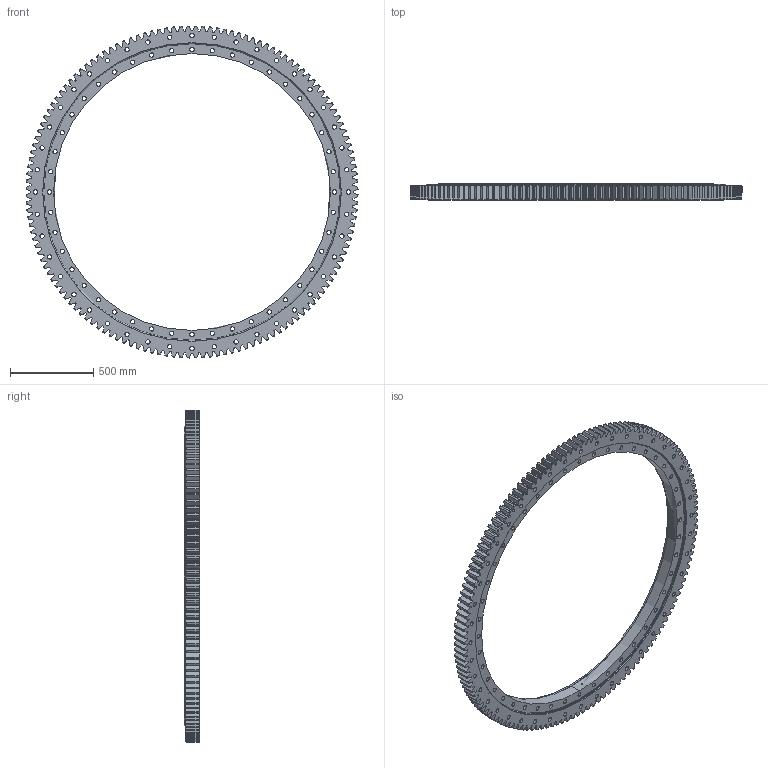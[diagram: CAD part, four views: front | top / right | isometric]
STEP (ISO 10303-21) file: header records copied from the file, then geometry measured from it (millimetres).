
FILE_DESCRIPTION (( 'STEP AP214' ), '1' );
FILE_NAME ('B2140-2-1999AA.STEP', '2022-11-28T14:23:37', ( '' ), ( '' ), 'SwSTEP 2.0', 'SolidWorks 2020', '' );
FILE_SCHEMA (( 'AUTOMOTIVE_DESIGN' ));
Length unit declared in the file: millimetre
Products named in the file (1): B2140-2-1999AA
Bounding box: 1998.93 x 95 x 1998.93 mm (x, y, z)
Volume: 68554786.2 mm3; surface area: 5172186.2 mm2
Topology: 4 solids, 4 shells, 1227 faces, 3608 edges, 2404 vertices
Faces by surface type: cylinder 356, plane 303, cone 288, bspline 280
Entity records: 42723 total; most frequent: CARTESIAN_POINT 11704, ORIENTED_EDGE 7216, DIRECTION 5372, EDGE_CURVE 3608, VERTEX_POINT 2404, AXIS2_PLACEMENT_3D 1944, LINE 1484, VECTOR 1484
